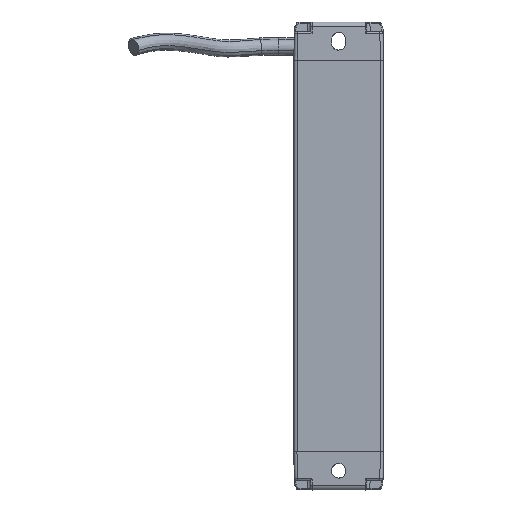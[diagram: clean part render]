
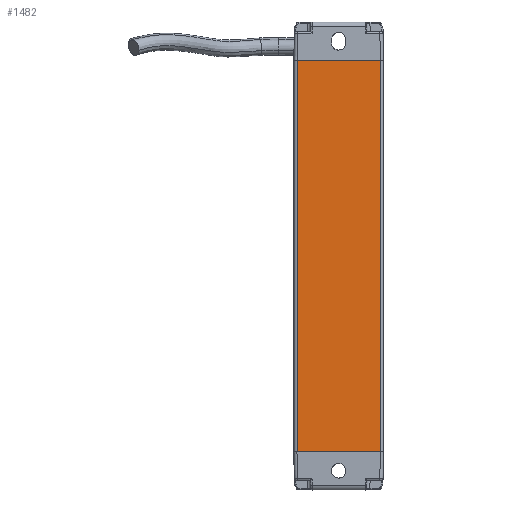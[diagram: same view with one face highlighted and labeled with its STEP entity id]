
A CAD part, front view. The second image highlights one B-rep face of the part: STEP entity #1482.
In plain terms, the highlighted planar face has unit normal (-0.001, -1, 0).
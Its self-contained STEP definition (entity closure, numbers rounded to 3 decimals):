
#1482=ADVANCED_FACE('',(#2588),#2115,.T.);
#2115=PLANE('',#14912);
#2588=FACE_OUTER_BOUND('',#3333,.T.);
#3333=EDGE_LOOP('',(#5778,#5779,#5780,#5781));
#5778=ORIENTED_EDGE('',*,*,#10700,.T.);
#5779=ORIENTED_EDGE('',*,*,#10653,.F.);
#5780=ORIENTED_EDGE('',*,*,#10698,.T.);
#5781=ORIENTED_EDGE('',*,*,#10701,.T.);
#9003=VERTEX_POINT('',#22470);
#9004=VERTEX_POINT('',#22472);
#9041=VERTEX_POINT('',#22561);
#9042=VERTEX_POINT('',#22565);
#10653=EDGE_CURVE('',#9003,#9004,#12502,.T.);
#10698=EDGE_CURVE('',#9003,#9041,#12533,.T.);
#10700=EDGE_CURVE('',#9042,#9004,#12534,.T.);
#10701=EDGE_CURVE('',#9041,#9042,#12535,.T.);
#12502=LINE('',#22471,#13717);
#12533=LINE('',#22560,#13748);
#12534=LINE('',#22564,#13749);
#12535=LINE('',#22566,#13750);
#13717=VECTOR('',#17065,1.);
#13748=VECTOR('',#17138,1.);
#13749=VECTOR('',#17143,1.);
#13750=VECTOR('',#17144,1.);
#14912=AXIS2_PLACEMENT_3D('',#22567,#17145,#17146);
#17065=DIRECTION('',(1.,-0.001,0.));
#17138=DIRECTION('',(0.,0.,-1.));
#17143=DIRECTION('',(0.,0.,1.));
#17144=DIRECTION('',(1.,-0.001,0.));
#17145=DIRECTION('',(-0.001,-1.,0.));
#17146=DIRECTION('',(-1.,0.001,0.));
#22470=CARTESIAN_POINT('',(53.048,-142.376,280.376));
#22471=CARTESIAN_POINT('',(79.028,-142.395,280.376));
#22472=CARTESIAN_POINT('',(79.028,-142.395,280.376));
#22560=CARTESIAN_POINT('',(53.048,-142.376,543.376));
#22561=CARTESIAN_POINT('',(53.048,-142.376,158.376));
#22564=CARTESIAN_POINT('',(79.028,-142.395,198.376));
#22565=CARTESIAN_POINT('',(79.028,-142.395,158.376));
#22566=CARTESIAN_POINT('',(79.028,-142.395,158.376));
#22567=CARTESIAN_POINT('',(79.028,-142.395,543.376));
